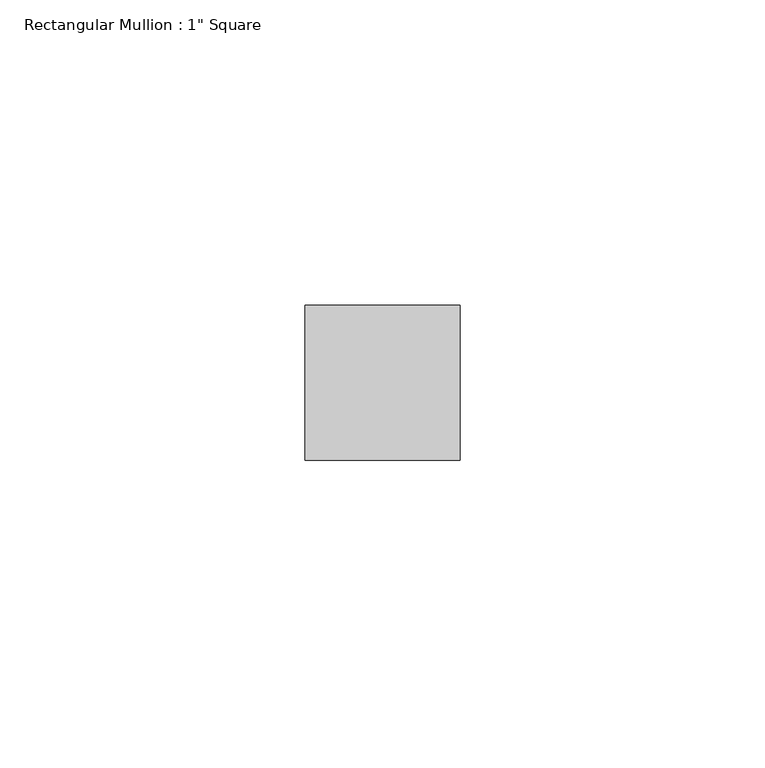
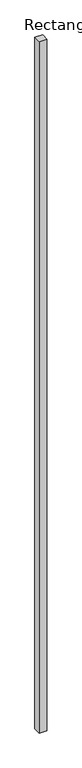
"""IFC4 building model written with IfcOpenShell, lengths in millimetres: member geometry."""

import ifcopenshell
import ifcopenshell.guid

model = None  # the IFC model being written
_history = None  # IfcOwnerHistory: only IFC2X3 demands one
_inside = {}  # id of a spatial element -> (the spatial element, [elements in it])
_under = {}  # id of a project, library or spatial element -> (it, [spatial elements below it])
_declared = {}  # id of a project -> (the project, [libraries it declares])
_typed = {}  # id of a type object -> (the type object, [elements of that type])
_made_of = {}  # id of a material, layer set ... -> (it, [elements and type objects made of it])


def new_model(schema):
    """Start an empty IFC model of exactly this schema.

    Asked for "IFC4X3", IfcOpenShell would pick the latest addendum, in which some entities
    have other attributes; the version numbers below select the first issue.
    IFC2X3 requires an IfcOwnerHistory on every rooted entity: one is made here for all.
    """
    global model, _history
    if schema == "IFC4X3":
        model = ifcopenshell.file(schema_version=(4, 3, 0, 0))
    else:
        model = ifcopenshell.file(schema=schema)
    _inside.clear()
    _under.clear()
    _declared.clear()
    _typed.clear()
    _made_of.clear()
    _history = None
    if model.schema == "IFC2X3":
        org = make("IfcOrganization", Name="unknown")
        user = make(
            "IfcPersonAndOrganization",
            ThePerson=make("IfcPerson", FamilyName="unknown"),
            TheOrganization=org,
        )
        app = make(
            "IfcApplication",
            ApplicationDeveloper=org,
            Version="unknown",
            ApplicationFullName="unknown",
            ApplicationIdentifier="unknown",
        )
        _history = make(
            "IfcOwnerHistory",
            OwningUser=user,
            OwningApplication=app,
            ChangeAction="ADDED",
            CreationDate=0,
        )
    return model


def make(cls, **values):
    """One entity of the class cls with the attributes given. An attribute that is None is left unset."""
    return model.create_entity(
        cls, **{name: value for name, value in values.items() if value is not None}
    )


def rooted(cls, **values):
    """An entity with a GlobalId (a new one), such as an element, a storey or a relation."""
    return make(cls, GlobalId=ifcopenshell.guid.new(), OwnerHistory=_history, **values)


def si_unit(unit_type, name, prefix=None):
    """IfcSIUnit, for example si_unit("LENGTHUNIT", "METRE", prefix="MILLI")."""
    return make("IfcSIUnit", UnitType=unit_type, Prefix=prefix, Name=name)


def assignment(units):
    """IfcUnitAssignment: the units of a project."""
    return None if units is None else make("IfcUnitAssignment", Units=units)


def point(xyz):
    """IfcCartesianPoint."""
    return None if xyz is None else make("IfcCartesianPoint", Coordinates=xyz)


def direction(xyz):
    """IfcDirection."""
    return None if xyz is None else make("IfcDirection", DirectionRatios=xyz)


def frame(location, z_axis=None, x_axis=None):
    """IfcAxis2Placement3D, a coordinate frame: its origin and axes. An axis left out is left unset."""
    return make(
        "IfcAxis2Placement3D",
        Location=point(location),
        Axis=direction(z_axis),
        RefDirection=direction(x_axis),
    )


def origin():
    """The frame at (0, 0, 0) with its axes left unset."""
    return frame((0.0, 0.0, 0.0))


def place(relative_to, where):
    """IfcLocalPlacement: puts the frame where relative to a parent placement (None: the world)."""
    return make(
        "IfcLocalPlacement", PlacementRelTo=relative_to, RelativePlacement=where
    )


def context(
    kind, dimensions, precision=None, world=None, true_north=None, identifier=None
):
    """IfcGeometricRepresentationContext, for example the 3D "Model" context."""
    return make(
        "IfcGeometricRepresentationContext",
        ContextIdentifier=identifier,
        ContextType=kind,
        CoordinateSpaceDimension=dimensions,
        Precision=precision,
        WorldCoordinateSystem=world,
        TrueNorth=true_north,
    )


def project(units=None, contexts=None):
    """IfcProject with its units and contexts."""
    return rooted(
        "IfcProject",
        Name="project",
        RepresentationContexts=contexts,
        UnitsInContext=assignment(units),
    )


def spatial(cls, under=None, at=None, **own):
    """A site, building, storey or space (cls), placed at a placement, below another one or the project."""
    s = rooted(cls, ObjectPlacement=at, **own)
    if under is not None:
        _under.setdefault(under.id(), (under, []))[1].append(s)
    return s


def polyline(points):
    """IfcPolyline through the points."""
    return make("IfcPolyline", Points=[point(p) for p in points])


def outline(outer, holes=None, kind="AREA"):
    """IfcArbitraryClosedProfileDef: a profile drawn as a closed curve; with holes, ...WithVoids."""
    if holes is None:
        return make("IfcArbitraryClosedProfileDef", ProfileType=kind, OuterCurve=outer)
    return make(
        "IfcArbitraryProfileDefWithVoids",
        ProfileType=kind,
        OuterCurve=outer,
        InnerCurves=holes,
    )


def extrude(swept, where, along, depth):
    """IfcExtrudedAreaSolid: the profile swept, set in the frame where, extruded along a direction by depth."""
    return make(
        "IfcExtrudedAreaSolid",
        SweptArea=swept,
        Position=where,
        ExtrudedDirection=direction(along),
        Depth=depth,
    )


def shape(context_of_items, identifier, shape_type, items):
    """IfcShapeRepresentation: the items that make up one representation, for example the "Body"."""
    return make(
        "IfcShapeRepresentation",
        ContextOfItems=context_of_items,
        RepresentationIdentifier=identifier,
        RepresentationType=shape_type,
        Items=items,
    )


def source(mapping_origin, context_of_items, identifier, shape_type, items):
    """IfcRepresentationMap: a shape defined once, which mapped items show again and again."""
    return make(
        "IfcRepresentationMap",
        MappingOrigin=mapping_origin,
        MappedRepresentation=shape(context_of_items, identifier, shape_type, items),
    )


def transform(
    local_origin,
    x_axis=None,
    y_axis=None,
    z_axis=None,
    scale=None,
    scale2=None,
    scale3=None,
    uniform=True,
):
    """IfcCartesianTransformationOperator3D, or its non-uniform kind. x_axis, y_axis, z_axis: its Axis1, 2, 3."""
    if uniform:
        return make(
            "IfcCartesianTransformationOperator3D",
            Axis1=direction(x_axis),
            Axis2=direction(y_axis),
            LocalOrigin=point(local_origin),
            Scale=scale,
            Axis3=direction(z_axis),
        )
    return make(
        "IfcCartesianTransformationOperator3DnonUniform",
        Axis1=direction(x_axis),
        Axis2=direction(y_axis),
        LocalOrigin=point(local_origin),
        Scale=scale,
        Axis3=direction(z_axis),
        Scale2=scale2,
        Scale3=scale3,
    )


def mapped(mapping_source, mapping_target):
    """IfcMappedItem: shows the shape of a source again, moved by a transform."""
    return make(
        "IfcMappedItem", MappingSource=mapping_source, MappingTarget=mapping_target
    )


def made_of(thing, what):
    """Note that an element or type object is made of a material, layer set ...; save() writes the relation."""
    if what is not None:
        _made_of.setdefault(what.id(), (what, []))[1].append(thing)
    return thing


def element(
    cls,
    number,
    at=None,
    inside=None,
    cuts=None,
    type_object=None,
    material=None,
    context=None,
    identifier="Body",
    shape_type=None,
    held_by="IfcProductDefinitionShape",
    body=None,
    shapes=None,
    **own,
):
    """One element of the class cls, such as IfcWall. Its Tag is "e" and its number.

    at: its placement. inside: the storey or other place that contains it. cuts: it is an
    opening in that element (IfcRelVoidsElement). A single representation is given by context,
    identifier, shape_type and body (its items); several are given by shapes. held_by: the class
    of the entity that holds the representations. save() writes the other relations.
    """
    e = rooted(cls, Tag="e%d" % number, ObjectPlacement=at, **own)
    if body is not None:
        shapes = [shape(context, identifier, shape_type, body)]
    if shapes is not None:
        e.Representation = make(held_by, Representations=shapes)
    if inside is not None:
        _inside.setdefault(inside.id(), (inside, []))[1].append(e)
    if cuts is not None:
        rooted(
            "IfcRelVoidsElement", RelatingBuildingElement=cuts, RelatedOpeningElement=e
        )
    if type_object is not None:
        _typed.setdefault(type_object.id(), (type_object, []))[1].append(e)
    return made_of(e, material)


def aggregate(whole, parts):
    """IfcRelAggregates: a whole, such as a stair, and the parts it consists of."""
    return rooted("IfcRelAggregates", RelatingObject=whole, RelatedObjects=parts)


def save(model, path):
    """Write the relations noted so far, then the file.

    IfcRelAggregates (storeys below a building ...), IfcRelContainedInSpatialStructure (elements
    in a storey), IfcRelDefinesByType, IfcRelAssociatesMaterial and IfcRelDeclares: one each for
    every whole, place, type object, material and project.
    """
    for whole, parts in _under.values():
        aggregate(whole, parts)
    for where, things in _inside.values():
        rooted(
            "IfcRelContainedInSpatialStructure",
            RelatedElements=things,
            RelatingStructure=where,
        )
    for kind, things in _typed.values():
        rooted("IfcRelDefinesByType", RelatedObjects=things, RelatingType=kind)
    for what, things in _made_of.values():
        rooted("IfcRelAssociatesMaterial", RelatedObjects=things, RelatingMaterial=what)
    for by, libraries in _declared.values():
        rooted("IfcRelDeclares", RelatingContext=by, RelatedDefinitions=libraries)
    model.write(path)


def member_bb2431d7(model_context):
    return source(origin(), model_context, "Body", "SweptSolid", [
        extrude(outline(polyline([(0.0, 44.45), (0.0, 19.05), (-25.4, 19.05), (-25.4, 44.45), (0.0, 44.45)])), frame((0.0, 0.0, -2438.4), z_axis=(0.0, 0.0, 1.0), x_axis=(1.0, 0.0, 0.0)), (0.0, 0.0, 1.0), 2438.4),
    ])


if __name__ == "__main__":
    model = new_model("IFC4")
    model_context = context("Model", 3, world=origin())
    ifc_project = project(units=[si_unit("LENGTHUNIT", "METRE", prefix="MILLI")], contexts=[model_context])
    site = spatial("IfcSite", under=ifc_project)
    building = spatial("IfcBuilding", under=site)
    placement = place(None, origin())
    member_shape = member_bb2431d7(model_context)
    element("IfcMember", 1, ObjectType="Rectangular Mullion : 1\" Square", at=placement, inside=building, context=model_context, shape_type="MappedRepresentation", body=[
        mapped(member_shape, transform((0.0, 0.0, 0.0), x_axis=(1.0, 0.0, 0.0), y_axis=(0.0, 1.0, 0.0), z_axis=(0.0, 0.0, 1.0))),
    ])
    save(model, "model.ifc")
